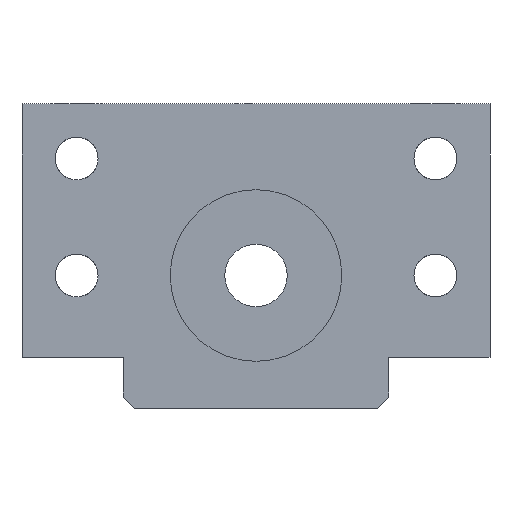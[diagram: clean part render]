
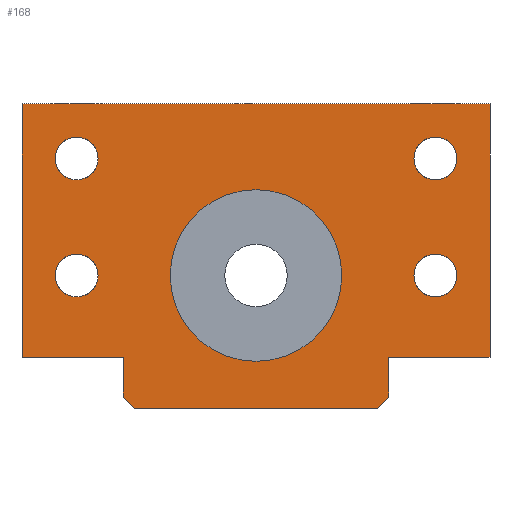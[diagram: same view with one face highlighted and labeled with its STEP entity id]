
A CAD part, left-side view. The second image highlights one B-rep face of the part: STEP entity #168.
In plain terms, the highlighted planar face has unit normal (-1, 0, 0).
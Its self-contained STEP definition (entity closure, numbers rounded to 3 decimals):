
#88=LINE('',#1129,#118);
#89=LINE('',#1133,#119);
#90=LINE('',#1135,#120);
#91=LINE('',#1137,#121);
#92=LINE('',#1139,#122);
#93=LINE('',#1141,#123);
#94=LINE('',#1143,#124);
#95=LINE('',#1145,#125);
#96=LINE('',#1147,#126);
#97=LINE('',#1149,#127);
#118=VECTOR('',#692,1.);
#119=VECTOR('',#697,1.);
#120=VECTOR('',#698,1.);
#121=VECTOR('',#699,1.);
#122=VECTOR('',#700,1.);
#123=VECTOR('',#701,1.);
#124=VECTOR('',#702,1.);
#125=VECTOR('',#703,1.);
#126=VECTOR('',#704,1.);
#127=VECTOR('',#705,1.);
#147=PLANE('',#623);
#168=ADVANCED_FACE('',(#248,#249,#250,#251,#252,#253),#147,.T.);
#209=CIRCLE('',#608,2.75);
#210=CIRCLE('',#610,2.75);
#215=CIRCLE('',#620,2.75);
#216=CIRCLE('',#621,2.75);
#217=CIRCLE('',#622,11.);
#248=FACE_BOUND('',#313,.T.);
#249=FACE_BOUND('',#314,.T.);
#250=FACE_BOUND('',#315,.T.);
#251=FACE_BOUND('',#316,.T.);
#252=FACE_BOUND('',#317,.T.);
#253=FACE_BOUND('',#318,.T.);
#313=EDGE_LOOP('',(#388,#389,#390,#391,#392,#393,#394,#395,#396,#397));
#314=EDGE_LOOP('',(#398));
#315=EDGE_LOOP('',(#399));
#316=EDGE_LOOP('',(#400));
#317=EDGE_LOOP('',(#401));
#318=EDGE_LOOP('',(#402));
#388=ORIENTED_EDGE('',*,*,#552,.T.);
#389=ORIENTED_EDGE('',*,*,#553,.T.);
#390=ORIENTED_EDGE('',*,*,#554,.T.);
#391=ORIENTED_EDGE('',*,*,#555,.T.);
#392=ORIENTED_EDGE('',*,*,#556,.T.);
#393=ORIENTED_EDGE('',*,*,#557,.T.);
#394=ORIENTED_EDGE('',*,*,#558,.T.);
#395=ORIENTED_EDGE('',*,*,#559,.T.);
#396=ORIENTED_EDGE('',*,*,#560,.T.);
#397=ORIENTED_EDGE('',*,*,#550,.T.);
#398=ORIENTED_EDGE('',*,*,#561,.F.);
#399=ORIENTED_EDGE('',*,*,#562,.F.);
#400=ORIENTED_EDGE('',*,*,#542,.F.);
#401=ORIENTED_EDGE('',*,*,#543,.F.);
#402=ORIENTED_EDGE('',*,*,#563,.F.);
#492=VERTEX_POINT('',#1108);
#493=VERTEX_POINT('',#1111);
#498=VERTEX_POINT('',#1124);
#500=VERTEX_POINT('',#1128);
#502=VERTEX_POINT('',#1134);
#503=VERTEX_POINT('',#1136);
#504=VERTEX_POINT('',#1138);
#505=VERTEX_POINT('',#1140);
#506=VERTEX_POINT('',#1142);
#507=VERTEX_POINT('',#1144);
#508=VERTEX_POINT('',#1146);
#509=VERTEX_POINT('',#1148);
#510=VERTEX_POINT('',#1151);
#511=VERTEX_POINT('',#1153);
#512=VERTEX_POINT('',#1155);
#542=EDGE_CURVE('GENERATED CIRCLE',#492,#492,#209,.T.);
#543=EDGE_CURVE('GENERATED CIRCLE',#493,#493,#210,.T.);
#550=EDGE_CURVE('LINE',#498,#500,#88,.T.);
#552=EDGE_CURVE('LINE',#500,#502,#89,.T.);
#553=EDGE_CURVE('LINE',#502,#503,#90,.T.);
#554=EDGE_CURVE('LINE',#503,#504,#91,.T.);
#555=EDGE_CURVE('LINE',#504,#505,#92,.T.);
#556=EDGE_CURVE('LINE',#505,#506,#93,.T.);
#557=EDGE_CURVE('LINE',#506,#507,#94,.T.);
#558=EDGE_CURVE('LINE',#507,#508,#95,.T.);
#559=EDGE_CURVE('LINE',#508,#509,#96,.T.);
#560=EDGE_CURVE('LINE',#509,#498,#97,.T.);
#561=EDGE_CURVE('GENERATED CIRCLE',#510,#510,#215,.T.);
#562=EDGE_CURVE('GENERATED CIRCLE',#511,#511,#216,.T.);
#563=EDGE_CURVE('GENERATED CIRCLE',#512,#512,#217,.T.);
#608=AXIS2_PLACEMENT_3D('',#1107,#669,#670);
#610=AXIS2_PLACEMENT_3D('',#1110,#673,#674);
#620=AXIS2_PLACEMENT_3D('',#1150,#706,#707);
#621=AXIS2_PLACEMENT_3D('',#1152,#708,#709);
#622=AXIS2_PLACEMENT_3D('',#1154,#710,#711);
#623=AXIS2_PLACEMENT_3D('',#1156,#712,#713);
#669=DIRECTION('',(-1.,0.,0.));
#670=DIRECTION('',(0.,0.,1.));
#673=DIRECTION('',(-1.,0.,0.));
#674=DIRECTION('',(0.,0.,1.));
#692=DIRECTION('',(0.,1.,0.));
#697=DIRECTION('',(0.,0.,-1.));
#698=DIRECTION('',(0.,-1.,0.));
#699=DIRECTION('',(0.,0.,-1.));
#700=DIRECTION('',(0.,-0.707,-0.707));
#701=DIRECTION('',(0.,-1.,0.));
#702=DIRECTION('',(0.,-0.707,0.707));
#703=DIRECTION('',(0.,0.,1.));
#704=DIRECTION('',(0.,-1.,0.));
#705=DIRECTION('',(0.,0.,1.));
#706=DIRECTION('',(-1.,0.,0.));
#707=DIRECTION('',(0.,0.,1.));
#708=DIRECTION('',(-1.,0.,0.));
#709=DIRECTION('',(0.,0.,1.));
#710=DIRECTION('',(-1.,0.,0.));
#711=DIRECTION('',(0.,0.,1.));
#712=DIRECTION('',(-1.,0.,0.));
#713=DIRECTION('',(0.,-1.,0.));
#1107=CARTESIAN_POINT('',(10.,-23.,-7.));
#1108=CARTESIAN_POINT('',(10.,-23.,-4.25));
#1110=CARTESIAN_POINT('',(10.,-23.,-22.));
#1111=CARTESIAN_POINT('',(10.,-23.,-19.25));
#1124=CARTESIAN_POINT('',(10.,-30.,0.));
#1128=CARTESIAN_POINT('',(10.,30.,0.));
#1129=CARTESIAN_POINT('',(10.,0.,0.));
#1133=CARTESIAN_POINT('',(10.,30.,-16.25));
#1134=CARTESIAN_POINT('',(10.,30.,-32.5));
#1135=CARTESIAN_POINT('',(10.,23.5,-32.5));
#1136=CARTESIAN_POINT('',(10.,17.,-32.5));
#1137=CARTESIAN_POINT('',(10.,17.,-35.043));
#1138=CARTESIAN_POINT('',(10.,17.,-37.586));
#1139=CARTESIAN_POINT('',(10.,16.293,-38.293));
#1140=CARTESIAN_POINT('',(10.,15.586,-39.));
#1141=CARTESIAN_POINT('',(10.,0.,-39.));
#1142=CARTESIAN_POINT('',(10.,-15.586,-39.));
#1143=CARTESIAN_POINT('',(10.,-16.293,-38.293));
#1144=CARTESIAN_POINT('',(10.,-17.,-37.586));
#1145=CARTESIAN_POINT('',(10.,-17.,-35.043));
#1146=CARTESIAN_POINT('',(10.,-17.,-32.5));
#1147=CARTESIAN_POINT('',(10.,-23.5,-32.5));
#1148=CARTESIAN_POINT('',(10.,-30.,-32.5));
#1149=CARTESIAN_POINT('',(10.,-30.,-16.25));
#1150=CARTESIAN_POINT('',(10.,23.,-7.));
#1151=CARTESIAN_POINT('',(10.,23.,-4.25));
#1152=CARTESIAN_POINT('',(10.,23.,-22.));
#1153=CARTESIAN_POINT('',(10.,23.,-19.25));
#1154=CARTESIAN_POINT('',(10.,0.,-22.));
#1155=CARTESIAN_POINT('',(10.,0.,-11.));
#1156=CARTESIAN_POINT('',(10.,0.,0.));
